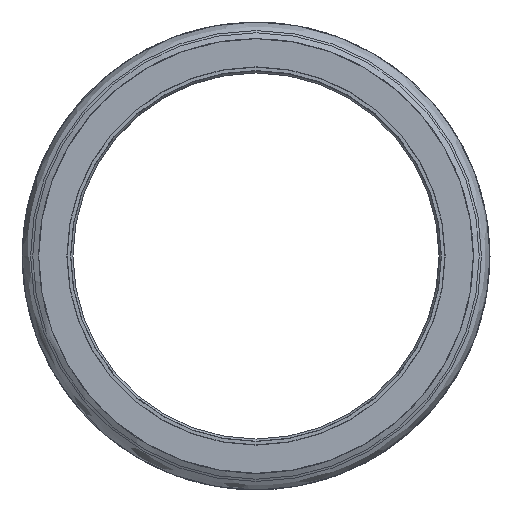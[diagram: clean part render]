
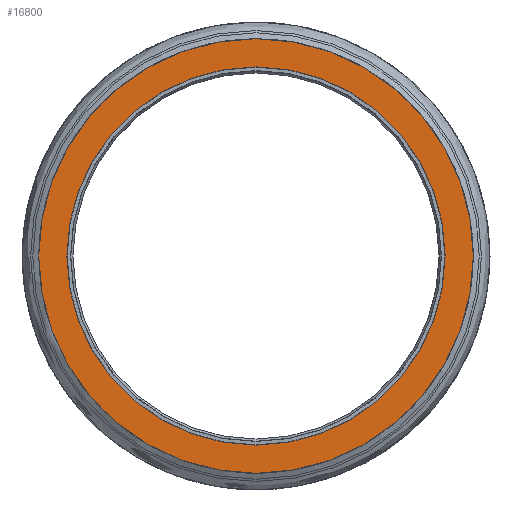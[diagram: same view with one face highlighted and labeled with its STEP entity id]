
A CAD part, front view. The second image highlights one B-rep face of the part: STEP entity #16800.
In plain terms, the highlighted planar face has unit normal (0, -1, 0) as drawn and (0, 1, 0) by its records, which use the part's own axes.
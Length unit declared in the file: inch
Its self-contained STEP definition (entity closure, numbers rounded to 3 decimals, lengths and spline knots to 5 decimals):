
#16738=CARTESIAN_POINT('',(-1.0335,2.0,0.));
#16739=VERTEX_POINT('',#16738);
#16740=CARTESIAN_POINT('',(0.0,2.0,0.0));
#16741=DIRECTION('',(0.0,-1.0,0.0));
#16742=DIRECTION('',(1.0,0.0,0.0));
#16743=AXIS2_PLACEMENT_3D('',#16740,#16741,#16742);
#16744=CIRCLE('',#16743,1.0335);
#16745=EDGE_CURVE('',#16739,#16739,#16744,.T.);
#16766=CARTESIAN_POINT('',(-1.1875,2.0,0.));
#16767=VERTEX_POINT('',#16766);
#16768=CARTESIAN_POINT('',(0.0,2.0,0.0));
#16769=DIRECTION('',(0.0,-1.0,0.0));
#16770=DIRECTION('',(1.0,0.0,0.0));
#16771=AXIS2_PLACEMENT_3D('',#16768,#16769,#16770);
#16772=CIRCLE('',#16771,1.1875);
#16773=EDGE_CURVE('',#16767,#16767,#16772,.T.);
#16789=CARTESIAN_POINT('',(0.0,2.0,0.0));
#16790=DIRECTION('',(0.0,-1.0,0.0));
#16791=DIRECTION('',(0.0,0.0,-1.0));
#16792=AXIS2_PLACEMENT_3D('',#16789,#16790,#16791);
#16793=PLANE('',#16792);
#16794=ORIENTED_EDGE('',*,*,#16773,.F.);
#16795=EDGE_LOOP('',(#16794));
#16796=FACE_OUTER_BOUND('',#16795,.T.);
#16797=ORIENTED_EDGE('',*,*,#16745,.T.);
#16798=EDGE_LOOP('',(#16797));
#16799=FACE_BOUND('',#16798,.T.);
#16800=ADVANCED_FACE('',(#16796,#16799),#16793,.F.);
